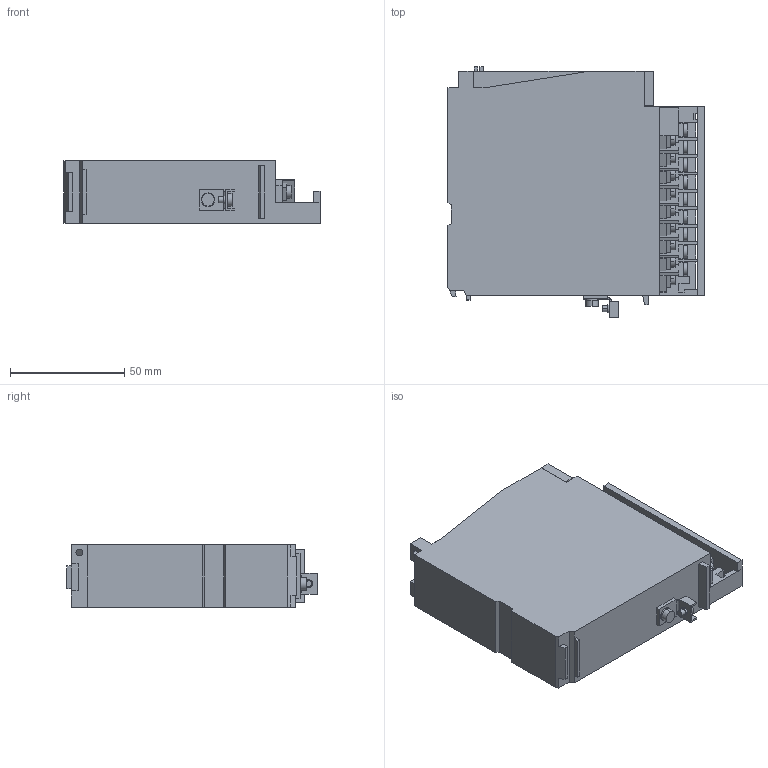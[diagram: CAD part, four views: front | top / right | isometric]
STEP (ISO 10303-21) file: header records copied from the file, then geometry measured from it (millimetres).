
FILE_DESCRIPTION (( 'STEP AP203' ), '1' );
FILE_NAME ('q68davn_b.step', '2010-04-08T08:05:18', ( ' ' ), ( '' ), 'SwSTEP 2.0', 'SolidWorks 2005204', '' );
FILE_SCHEMA (( 'CONFIG_CONTROL_DESIGN' ));
Length unit declared in the file: millimetre
Products named in the file (1): q68davn_b
Bounding box: 112 x 109.5 x 27.4 mm (x, y, z)
Volume: 261824.1 mm3; surface area: 39286.5 mm2
Topology: 2 solids, 2 shells, 401 faces, 1054 edges, 695 vertices
Faces by surface type: plane 350, cylinder 51
Entity records: 12245 total; most frequent: CARTESIAN_POINT 2151, ORIENTED_EDGE 2108, DIRECTION 1960, EDGE_CURVE 1054, VECTOR 952, LINE 952, VERTEX_POINT 695, AXIS2_PLACEMENT_3D 504
